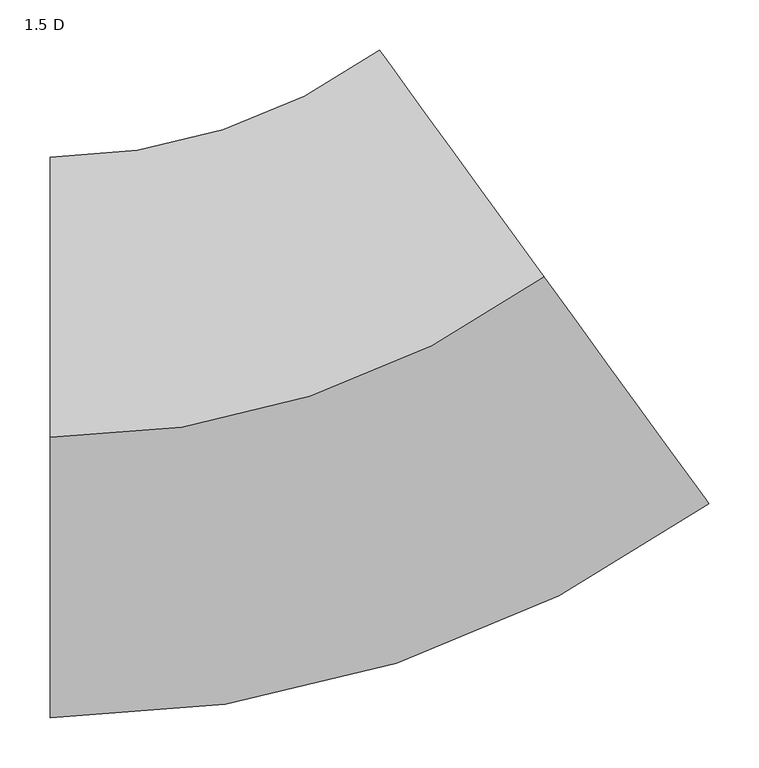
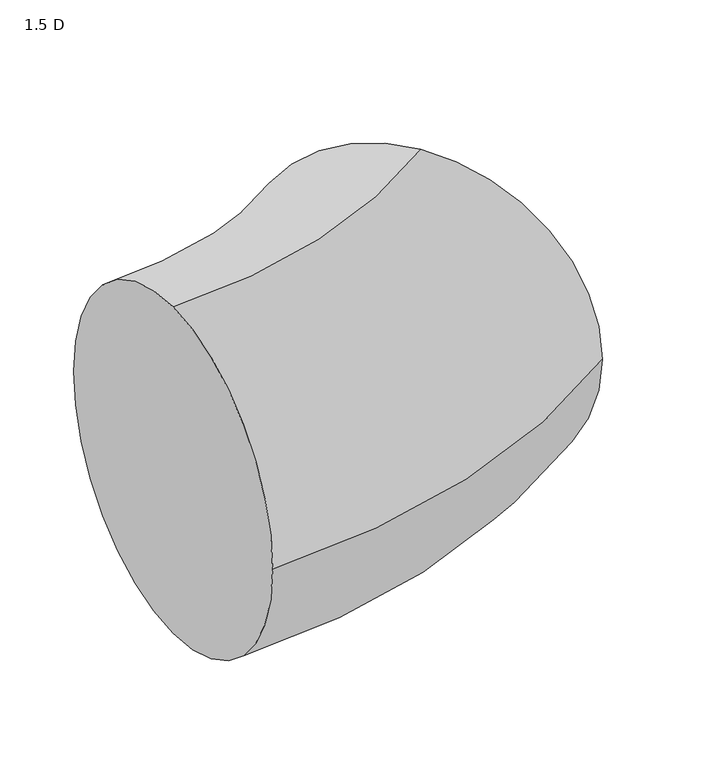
"""IFC4 building model written with IfcOpenShell, lengths in millimetres: duct fitting geometry, M_Отвод круглого сечения : 1.5 D."""

from ifc_helpers import new_model, si_unit, point, frame, origin, place, context, project, spatial, circle_curve, ellipse_curve, trimmed, source, transform, mapped, element, save
from ifc_brep_helpers import plane_surface, revolved_surface, advanced_brep


def duct_fitting_1_5_d_02080cf1(model_context):
    return source(origin(), model_context, "Body", "AdvancedBrep", [
        advanced_brep(
        [(-272.9325448, 0.0, 280.0), (-272.9325448, 280.0, 0.0), (-272.9325448, 0.0, -280.0), (-272.9325448, -280.0, 0.0), (220.8070671, 160.4257247, 280.0), (385.3869377, -66.0990337, 0.0), (220.8070671, 160.4257247, -280.0), (56.2271964, 386.9504832, 0.0)],
        [
            (0, 1, circle_curve(frame((-272.9325448, 0.0, 0.0), z_axis=(-1.0, 0.0, 0.0), x_axis=(0.0, 1.0, 0.0)), 280.0)),
            (1, 2, circle_curve(frame((-272.9325448, 0.0, 0.0), z_axis=(-1.0, 0.0, 0.0), x_axis=(0.0, 1.0, 0.0)), 280.0)),
            (2, 3, circle_curve(frame((-272.9325448, 0.0, 0.0), z_axis=(-1.0, 0.0, 0.0), x_axis=(0.0, 1.0, 0.0)), 280.0)),
            (3, 0, circle_curve(frame((-272.9325448, 0.0, 0.0), z_axis=(-1.0, 0.0, 0.0), x_axis=(0.0, 1.0, 0.0)), 280.0)),
            (4, 5, circle_curve(frame((220.8070671, 160.4257247, 0.0), z_axis=(0.8090169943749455, 0.5877852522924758, 0.0), x_axis=(-0.5877852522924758, 0.8090169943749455, 0.0)), 280.0)),
            (5, 6, circle_curve(frame((220.8070671, 160.4257247, 0.0), z_axis=(0.8090169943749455, 0.5877852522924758, 0.0), x_axis=(-0.5877852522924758, 0.8090169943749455, 0.0)), 280.0)),
            (6, 7, circle_curve(frame((220.8070671, 160.4257247, 0.0), z_axis=(0.8090169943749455, 0.5877852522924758, 0.0), x_axis=(-0.5877852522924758, 0.8090169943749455, 0.0)), 280.0)),
            (7, 4, circle_curve(frame((220.8070671, 160.4257247, 0.0), z_axis=(0.8090169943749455, 0.5877852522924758, 0.0), x_axis=(-0.5877852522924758, 0.8090169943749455, 0.0)), 280.0)),
            (7, 1, circle_curve(frame((-272.9325448, 840.0, 0.0), z_axis=(0.0, 0.0, -1.0), x_axis=(0.0, -1.0, 0.0)), 560.0)),
            (0, 4, circle_curve(frame((-272.9325448, 840.0, 280.0), z_axis=(0.0, 0.0, 1.0), x_axis=(0.0, -1.0, 0.0)), 840.0)),
            (6, 2, circle_curve(frame((-272.9325448, 840.0, -280.0), z_axis=(0.0, 0.0, -1.0), x_axis=(0.0, -1.0, 0.0)), 840.0)),
            (5, 3, circle_curve(frame((-272.9325448, 840.0, 0.0), z_axis=(0.0, 0.0, -1.0), x_axis=(0.0, -1.0, 0.0)), 1120.0)),
        ],
        [
            plane_surface(frame((-272.9325448, 0.0, 0.0), z_axis=(-1.0, 0.0, 0.0), x_axis=(0.0, 0.0, 1.0))),
            plane_surface(frame((220.8070671, 160.4257247, 0.0), z_axis=(0.8090169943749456, 0.5877852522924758, 0.0), x_axis=(0.0, 0.0, 1.0))),
            revolved_surface(trimmed(ellipse_curve(frame((-272.9325448, 0.0, 0.0), z_axis=(-1.0, 0.0, 0.0), x_axis=(0.0, 1.0, 0.0)), 280.0, 280.0), [point((-272.9325448, 0.0, 280.0))], [point((-272.9325448, 280.0, 0.0))], True, "CARTESIAN"), (-272.9325448, 840.0, 0.0), (0.0, 0.0, 1.0)),
            revolved_surface(trimmed(ellipse_curve(frame((-272.9325448, 0.0, 0.0), z_axis=(-1.0, 0.0, 0.0), x_axis=(0.0, 1.0, 0.0)), 280.0, 280.0), [point((-272.9325448, 280.0, 0.0))], [point((-272.9325448, 0.0, -280.0))], True, "CARTESIAN"), (-272.9325448, 840.0, 0.0), (0.0, 0.0, 1.0)),
            revolved_surface(trimmed(ellipse_curve(frame((-272.9325448, 0.0, 0.0), z_axis=(-1.0, 0.0, 0.0), x_axis=(0.0, 1.0, 0.0)), 280.0, 280.0), [point((-272.9325448, 0.0, -280.0))], [point((-272.9325448, -280.0, 0.0))], True, "CARTESIAN"), (-272.9325448, 840.0, 0.0), (0.0, 0.0, 1.0)),
            revolved_surface(trimmed(ellipse_curve(frame((-272.9325448, 0.0, 0.0), z_axis=(-1.0, 0.0, 0.0), x_axis=(0.0, 1.0, 0.0)), 280.0, 280.0), [point((-272.9325448, -280.0, 0.0))], [point((-272.9325448, 0.0, 280.0))], True, "CARTESIAN"), (-272.9325448, 840.0, 0.0), (0.0, 0.0, 1.0)),
        ],
        [
            (0, [[1, 2, 3, 4]]),
            (1, [[5, 6, 7, 8]]),
            (2, [[9, -1, 10, -8]]),
            (3, [[11, -2, -9, -7]]),
            (4, [[12, -3, -11, -6]]),
            (5, [[-10, -4, -12, -5]]),
        ],
    ),
    ])


if __name__ == "__main__":
    model = new_model("IFC4")
    model_context = context("Model", 3, world=origin())
    ifc_project = project(units=[si_unit("LENGTHUNIT", "METRE", prefix="MILLI")], contexts=[model_context])
    site = spatial("IfcSite", under=ifc_project)
    building = spatial("IfcBuilding", under=site)
    placement = place(None, origin())
    duct_fitting_1_5_d_shape = duct_fitting_1_5_d_02080cf1(model_context)
    element("IfcDuctFitting", 1, ObjectType="M_Отвод круглого сечения : 1.5 D", at=placement, inside=building, context=model_context, shape_type="MappedRepresentation", body=[
        mapped(duct_fitting_1_5_d_shape, transform((0.0, 0.0, 0.0), x_axis=(1.0, 0.0, 0.0), y_axis=(0.0, 1.0, 0.0), z_axis=(0.0, 0.0, 1.0))),
    ])
    save(model, "model.ifc")
